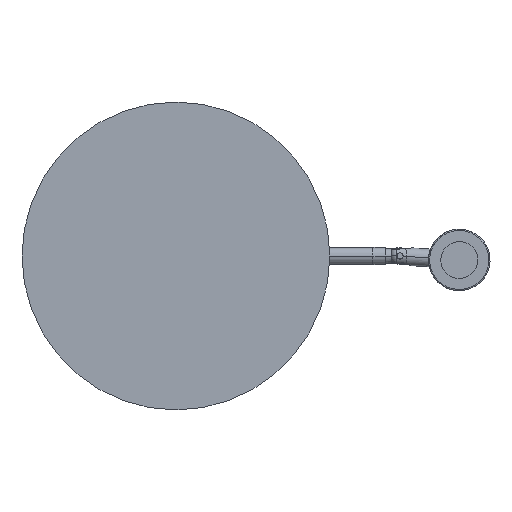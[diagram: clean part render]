
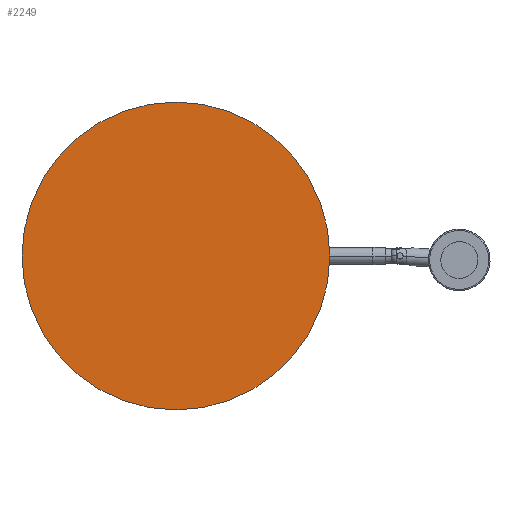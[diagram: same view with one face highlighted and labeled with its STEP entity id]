
A CAD part, front view. The second image highlights one B-rep face of the part: STEP entity #2249.
In plain terms, the highlighted planar face has unit normal (0, -1, 0).
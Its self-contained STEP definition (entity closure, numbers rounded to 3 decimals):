
#264 = FACE_OUTER_BOUND ( 'NONE', #1566, .T. ) ;
#271 = CARTESIAN_POINT ( 'NONE',  ( 0., 0., -125. ) ) ;
#417 = CARTESIAN_POINT ( 'NONE',  ( 0., 0., 0. ) ) ;
#506 = VERTEX_POINT ( 'NONE', #271 ) ;
#836 = AXIS2_PLACEMENT_3D ( 'NONE', #1918, #2675, #866 ) ;
#866 = DIRECTION ( 'NONE',  ( 0., 0., 1. ) ) ;
#916 = CIRCLE ( 'NONE', #836, 125. ) ;
#979 = EDGE_CURVE ( 'NONE', #1846, #506, #1624, .T. ) ;
#1111 = DIRECTION ( 'NONE',  ( 0., 1., 0. ) ) ;
#1204 = ORIENTED_EDGE ( 'NONE', *, *, #979, .F. ) ;
#1566 = EDGE_LOOP ( 'NONE', ( #1995, #1204 ) ) ;
#1624 = CIRCLE ( 'NONE', #2690, 125. ) ;
#1846 = VERTEX_POINT ( 'NONE', #2779 ) ;
#1918 = CARTESIAN_POINT ( 'NONE',  ( 0., 0., 0. ) ) ;
#1981 = PLANE ( 'NONE',  #2598 ) ;
#1995 = ORIENTED_EDGE ( 'NONE', *, *, #2583, .F. ) ;
#2196 = DIRECTION ( 'NONE',  ( 0., 1., 0. ) ) ;
#2249 = ADVANCED_FACE ( 'NONE', ( #264 ), #1981, .F. ) ;
#2363 = CARTESIAN_POINT ( 'NONE',  ( 0., 0., 0. ) ) ;
#2583 = EDGE_CURVE ( 'NONE', #506, #1846, #916, .T. ) ;
#2598 = AXIS2_PLACEMENT_3D ( 'NONE', #417, #2196, #2722 ) ;
#2675 = DIRECTION ( 'NONE',  ( 0., 1., 0. ) ) ;
#2690 = AXIS2_PLACEMENT_3D ( 'NONE', #2363, #1111, #2873 ) ;
#2722 = DIRECTION ( 'NONE',  ( 0., 0., 1. ) ) ;
#2779 = CARTESIAN_POINT ( 'NONE',  ( 0., 0., 125. ) ) ;
#2873 = DIRECTION ( 'NONE',  ( 0., 0., 1. ) ) ;
